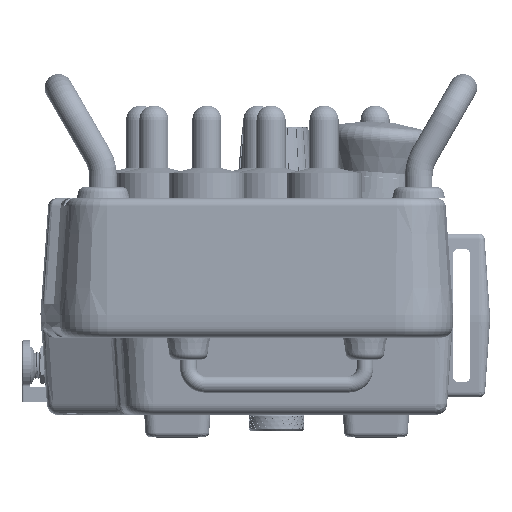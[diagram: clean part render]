
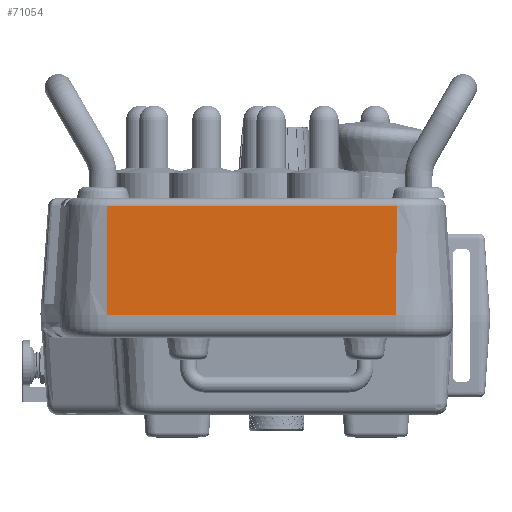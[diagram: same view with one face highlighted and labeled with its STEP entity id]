
A CAD part, left-side view. The second image highlights one B-rep face of the part: STEP entity #71054.
In plain terms, the highlighted planar face has unit normal (-0.993, 0.094, 0.07).
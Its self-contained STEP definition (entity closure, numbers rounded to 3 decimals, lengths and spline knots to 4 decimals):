
#4125=PLANE('',#75945);
#6572=FACE_OUTER_BOUND('',#10892,.T.);
#10892=EDGE_LOOP('',(#48799,#48800,#48801,#48802));
#15531=LINE('',#105992,#21574);
#15589=LINE('',#106582,#21632);
#15590=LINE('',#106584,#21633);
#15591=LINE('',#106585,#21634);
#21574=VECTOR('',#84281,3.2944);
#21632=VECTOR('',#84545,1.238);
#21633=VECTOR('',#84546,3.2944);
#21634=VECTOR('',#84547,1.238);
#30161=VERTEX_POINT('',#105984);
#30163=VERTEX_POINT('',#105990);
#30256=VERTEX_POINT('',#106581);
#30257=VERTEX_POINT('',#106583);
#37292=EDGE_CURVE('',#30163,#30161,#15531,.T.);
#37425=EDGE_CURVE('',#30163,#30256,#15589,.T.);
#37426=EDGE_CURVE('',#30256,#30257,#15590,.T.);
#37427=EDGE_CURVE('',#30161,#30257,#15591,.T.);
#48799=ORIENTED_EDGE('',*,*,#37292,.F.);
#48800=ORIENTED_EDGE('',*,*,#37425,.T.);
#48801=ORIENTED_EDGE('',*,*,#37426,.T.);
#48802=ORIENTED_EDGE('',*,*,#37427,.F.);
#71054=ADVANCED_FACE('',(#6572),#4125,.T.);
#75945=AXIS2_PLACEMENT_3D('',#106580,#84543,#84544);
#84281=DIRECTION('',(-0.094,-0.996,0.));
#84543=DIRECTION('center_axis',(-0.993,0.094,0.07));
#84544=DIRECTION('ref_axis',(0.094,0.996,0.));
#84545=DIRECTION('',(-0.069,0.007,-0.998));
#84546=DIRECTION('',(-0.094,-0.996,0.));
#84547=DIRECTION('',(-0.069,0.007,-0.998));
#105984=CARTESIAN_POINT('',(-4.3547,-1.0773,-0.093));
#105990=CARTESIAN_POINT('',(-4.0442,2.2024,-0.093));
#105992=CARTESIAN_POINT('',(-4.1145,1.4601,-0.093));
#106580=CARTESIAN_POINT('Origin',(-4.0377,2.2018,0.));
#106581=CARTESIAN_POINT('',(-4.1301,2.2106,-1.328));
#106582=CARTESIAN_POINT('',(-4.0377,2.2018,0.));
#106583=CARTESIAN_POINT('',(-4.4407,-1.0691,-1.328));
#106584=CARTESIAN_POINT('',(-4.4407,-1.0691,-1.328));
#106585=CARTESIAN_POINT('',(-4.3482,-1.0779,0.));
